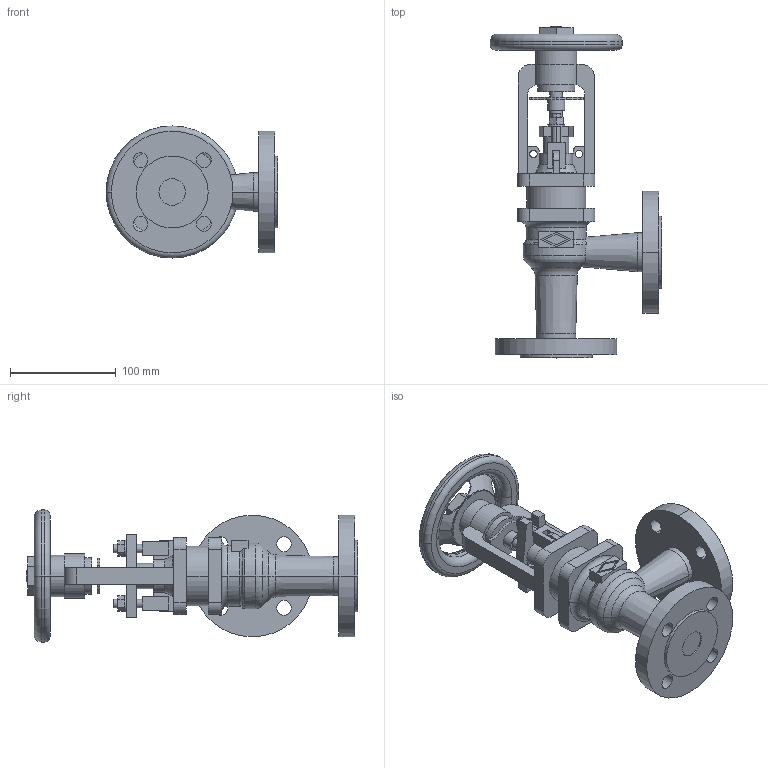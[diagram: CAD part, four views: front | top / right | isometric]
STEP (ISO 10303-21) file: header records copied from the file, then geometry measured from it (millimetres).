
FILE_DESCRIPTION(('OneSpaceDesigner STEP Export'),'2;1');
FILE_NAME('c000004436.stp','2010-05-17T 9:37:33',(''),(''),'OneSpace Designer STEP processor for AP214 (Solid Model)','OneSpace Modeling 15.50B 03-Nov-2007 (C) CoCreate Software GmbH','');
FILE_SCHEMA(('AUTOMOTIVE_DESIGN { 1 0 10303 214 1 1 1 1 }'));
Length unit declared in the file: millimetre
Products named in the file (1): 1
Bounding box: 162.5 x 314 x 125 mm (x, y, z)
Volume: 1001218.3 mm3; surface area: 168044.9 mm2
Topology: 1 solids, 1 shells, 297 faces, 786 edges, 514 vertices
Faces by surface type: plane 140, cylinder 115, torus 26, cone 16
Entity records: 11604 total; most frequent: CARTESIAN_POINT 2167, ORIENTED_EDGE 1572, DIRECTION 1325, EDGE_CURVE 786, VERTEX_POINT 514, AXIS2_PLACEMENT_3D 450, VECTOR 425, LINE 425
